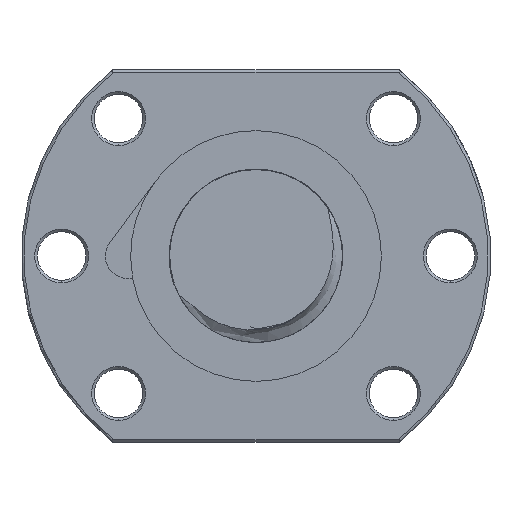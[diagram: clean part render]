
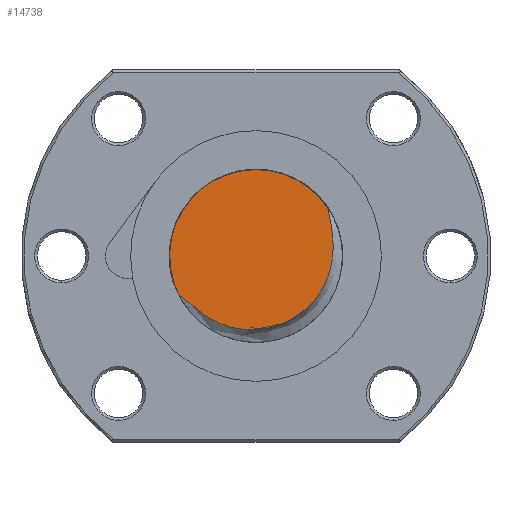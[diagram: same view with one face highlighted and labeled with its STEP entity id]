
A CAD part, left-side view. The second image highlights one B-rep face of the part: STEP entity #14738.
In plain terms, the highlighted planar face has unit normal (-1, 0, 0).
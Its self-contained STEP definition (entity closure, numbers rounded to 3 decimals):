
#1075 = CARTESIAN_POINT ( 'NONE',  ( -232., 14.324, -7.129 ) ) ;
#1076 = DIRECTION ( 'NONE',  ( 0., 1., 0. ) ) ;
#1077 = DIRECTION ( 'NONE',  ( 1., 0., 0. ) ) ;
#1078 = CARTESIAN_POINT ( 'NONE',  ( -232., 0., 0. ) ) ;
#1079 = AXIS2_PLACEMENT_3D ( 'NONE', #1078, #1077, #1076 ) ;
#1251 = CIRCLE ( 'NONE', #1079, 16. ) ;
#2573 = CARTESIAN_POINT ( 'NONE',  ( -232., -13.7, 6.92 ) ) ;
#2574 = CARTESIAN_POINT ( 'NONE',  ( -232., -13.804, 6.442 ) ) ;
#2575 = CARTESIAN_POINT ( 'NONE',  ( -232., -14.08, 5.001 ) ) ;
#2576 = CARTESIAN_POINT ( 'NONE',  ( -232., -14.218, 4.031 ) ) ;
#2577 = CARTESIAN_POINT ( 'NONE',  ( -232., -14.343, 2.092 ) ) ;
#2578 = CARTESIAN_POINT ( 'NONE',  ( -232., -14.333, 1.122 ) ) ;
#2579 = CARTESIAN_POINT ( 'NONE',  ( -232., -14.189, -0.337 ) ) ;
#2580 = CARTESIAN_POINT ( 'NONE',  ( -232., -14.12, -0.824 ) ) ;
#2581 = CARTESIAN_POINT ( 'NONE',  ( -232., -13.941, -1.781 ) ) ;
#2582 = CARTESIAN_POINT ( 'NONE',  ( -232., -13.83, -2.254 ) ) ;
#2583 = CARTESIAN_POINT ( 'NONE',  ( -232., -13.566, -3.186 ) ) ;
#2584 = CARTESIAN_POINT ( 'NONE',  ( -232., -13.413, -3.646 ) ) ;
#2585 = CARTESIAN_POINT ( 'NONE',  ( -232., -13.063, -4.553 ) ) ;
#2586 = CARTESIAN_POINT ( 'NONE',  ( -232., -12.865, -5.002 ) ) ;
#2587 = CARTESIAN_POINT ( 'NONE',  ( -232., -12.208, -6.316 ) ) ;
#2588 = CARTESIAN_POINT ( 'NONE',  ( -232., -11.694, -7.139 ) ) ;
#2589 = CARTESIAN_POINT ( 'NONE',  ( -232., -10.807, -8.291 ) ) ;
#2590 = CARTESIAN_POINT ( 'NONE',  ( -232., -10.492, -8.662 ) ) ;
#2591 = CARTESIAN_POINT ( 'NONE',  ( -232., -9.823, -9.376 ) ) ;
#2592 = CARTESIAN_POINT ( 'NONE',  ( -232., -9.469, -9.717 ) ) ;
#2593 = CARTESIAN_POINT ( 'NONE',  ( -232., -8.371, -10.678 ) ) ;
#2594 = CARTESIAN_POINT ( 'NONE',  ( -232., -7.584, -11.241 ) ) ;
#2595 = CARTESIAN_POINT ( 'NONE',  ( -232., -6.318, -11.968 ) ) ;
#2596 = CARTESIAN_POINT ( 'NONE',  ( -232., -5.88, -12.192 ) ) ;
#2597 = CARTESIAN_POINT ( 'NONE',  ( -232., -4.989, -12.593 ) ) ;
#2598 = CARTESIAN_POINT ( 'NONE',  ( -232., -4.536, -12.77 ) ) ;
#2599 = CARTESIAN_POINT ( 'NONE',  ( -232., -3.16, -13.232 ) ) ;
#2600 = CARTESIAN_POINT ( 'NONE',  ( -232., -2.216, -13.449 ) ) ;
#2601 = CARTESIAN_POINT ( 'NONE',  ( -232., -0.762, -13.638 ) ) ;
#2602 = CARTESIAN_POINT ( 'NONE',  ( -232., -0.272, -13.677 ) ) ;
#2603 = CARTESIAN_POINT ( 'NONE',  ( -232., 0.699, -13.707 ) ) ;
#2604 = CARTESIAN_POINT ( 'NONE',  ( -232., 1.181, -13.699 ) ) ;
#2605 = CARTESIAN_POINT ( 'NONE',  ( -232., 2.623, -13.607 ) ) ;
#2606 = CARTESIAN_POINT ( 'NONE',  ( -232., 3.576, -13.457 ) ) ;
#2607 = CARTESIAN_POINT ( 'NONE',  ( -232., 4.991, -13.096 ) ) ;
#2608 = CARTESIAN_POINT ( 'NONE',  ( -232., 5.462, -12.952 ) ) ;
#2609 = CARTESIAN_POINT ( 'NONE',  ( -232., 6.38, -12.627 ) ) ;
#2610 = CARTESIAN_POINT ( 'NONE',  ( -232., 6.829, -12.446 ) ) ;
#2611 = CARTESIAN_POINT ( 'NONE',  ( -232., 8.147, -11.846 ) ) ;
#2612 = CARTESIAN_POINT ( 'NONE',  ( -232., 8.988, -11.372 ) ) ;
#2613 = CARTESIAN_POINT ( 'NONE',  ( -232., 10.199, -10.564 ) ) ;
#2614 = CARTESIAN_POINT ( 'NONE',  ( -232., 10.596, -10.278 ) ) ;
#2615 = CARTESIAN_POINT ( 'NONE',  ( -232., 11.369, -9.68 ) ) ;
#2616 = CARTESIAN_POINT ( 'NONE',  ( -232., 11.745, -9.369 ) ) ;
#2617 = CARTESIAN_POINT ( 'NONE',  ( -232., 12.484, -8.73 ) ) ;
#2618 = CARTESIAN_POINT ( 'NONE',  ( -232., 12.846, -8.402 ) ) ;
#2619 = CARTESIAN_POINT ( 'NONE',  ( -232., 13.389, -7.911 ) ) ;
#2620 = CARTESIAN_POINT ( 'NONE',  ( -232., 13.57, -7.747 ) ) ;
#2621 = CARTESIAN_POINT ( 'NONE',  ( -232., 13.939, -7.428 ) ) ;
#2622 = CARTESIAN_POINT ( 'NONE',  ( -232., 14.127, -7.271 ) ) ;
#2623 = CARTESIAN_POINT ( 'NONE',  ( -232., 14.324, -7.129 ) ) ;
#2624 = B_SPLINE_CURVE_WITH_KNOTS ( 'NONE', 3,
 ( #2623, #2622, #2621, #2620, #2619, #2618, #2617, #2616, #2615, #2614, #2613, #2612, #2611, #2610, #2609, #2608, #2607, #2606, #2605, #2604, #2603, #2602, #2601, #2600, #2599, #2598, #2597, #2596, #2595, #2594, #2593, #2592, #2591, #2590, #2589, #2588, #2587, #2586, #2585, #2584, #2583, #2582, #2581, #2580, #2579, #2578, #2577, #2576, #2575, #2574, #2573, #2646, #2645, #2644, #2643, #2642 ),
 .UNSPECIFIED., .F., .F.,
 ( 4, 2, 2, 2, 2, 2, 2, 2, 2, 2, 2, 2, 2, 2, 2, 2, 2, 2, 2, 2, 2, 2, 2, 2, 2, 2, 2, 4 ),
 ( 0.012, 0.013, 0.014, 0.015, 0.017, 0.018, 0.021, 0.022, 0.024, 0.027, 0.028, 0.029, 0.032, 0.034, 0.035, 0.038, 0.039, 0.041, 0.044, 0.045, 0.047, 0.048, 0.049, 0.052, 0.055, 0.057, 0.057, 0.058 ),
 .UNSPECIFIED. ) ;
#2642 = CARTESIAN_POINT ( 'NONE',  ( -232., -13.336, 8.84 ) ) ;
#2643 = CARTESIAN_POINT ( 'NONE',  ( -232., -13.36, 8.597 ) ) ;
#2644 = CARTESIAN_POINT ( 'NONE',  ( -232., -13.403, 8.356 ) ) ;
#2645 = CARTESIAN_POINT ( 'NONE',  ( -232., -13.495, 7.876 ) ) ;
#2646 = CARTESIAN_POINT ( 'NONE',  ( -232., -13.546, 7.637 ) ) ;
#7562 = CARTESIAN_POINT ( 'NONE',  ( -232., 0., 16. ) ) ;
#9912 = DIRECTION ( 'NONE',  ( 0., 0., -1. ) ) ;
#9913 = DIRECTION ( 'NONE',  ( 1., 0., 0. ) ) ;
#9914 = CARTESIAN_POINT ( 'NONE',  ( -232., 0., 0. ) ) ;
#9915 = AXIS2_PLACEMENT_3D ( 'NONE', #9914, #9913, #9912 ) ;
#9916 = PLANE ( 'NONE',  #9915 ) ;
#9921 = FACE_OUTER_BOUND ( 'NONE', #14739, .T. ) ;
#12066 = CARTESIAN_POINT ( 'NONE',  ( -232., 0., 0. ) ) ;
#12226 = CARTESIAN_POINT ( 'NONE',  ( -232., -13.336, 8.84 ) ) ;
#12227 = DIRECTION ( 'NONE',  ( 0., 1., 0. ) ) ;
#12228 = DIRECTION ( 'NONE',  ( 1., 0., 0. ) ) ;
#12229 = AXIS2_PLACEMENT_3D ( 'NONE', #12066, #12228, #12227 ) ;
#12230 = CIRCLE ( 'NONE', #12229, 16. ) ;
#14281 = VERTEX_POINT ( 'NONE', #7562 ) ;
#14424 = EDGE_CURVE ( 'NONE', #14425, #14281, #1251, .T. ) ;
#14425 = VERTEX_POINT ( 'NONE', #1075 ) ;
#14713 = ORIENTED_EDGE ( 'NONE', *, *, #14424, .F. ) ;
#14714 = ORIENTED_EDGE ( 'NONE', *, *, #14715, .T. ) ;
#14715 = EDGE_CURVE ( 'NONE', #14425, #14903, #2624, .T. ) ;
#14716 = ORIENTED_EDGE ( 'NONE', *, *, #14902, .F. ) ;
#14738 = ADVANCED_FACE ( 'NONE', ( #9921 ), #9916, .F. ) ;
#14739 = EDGE_LOOP ( 'NONE', ( #14713, #14714, #14716 ) ) ;
#14902 = EDGE_CURVE ( 'NONE', #14281, #14903, #12230, .T. ) ;
#14903 = VERTEX_POINT ( 'NONE', #12226 ) ;
